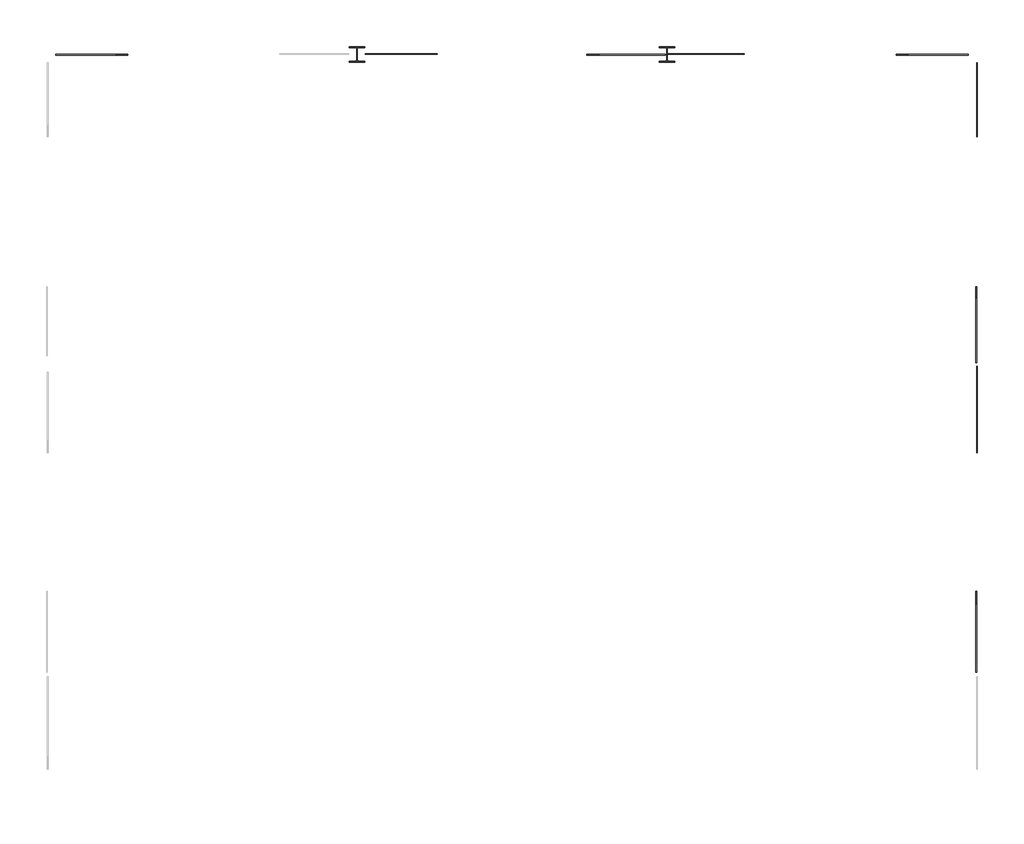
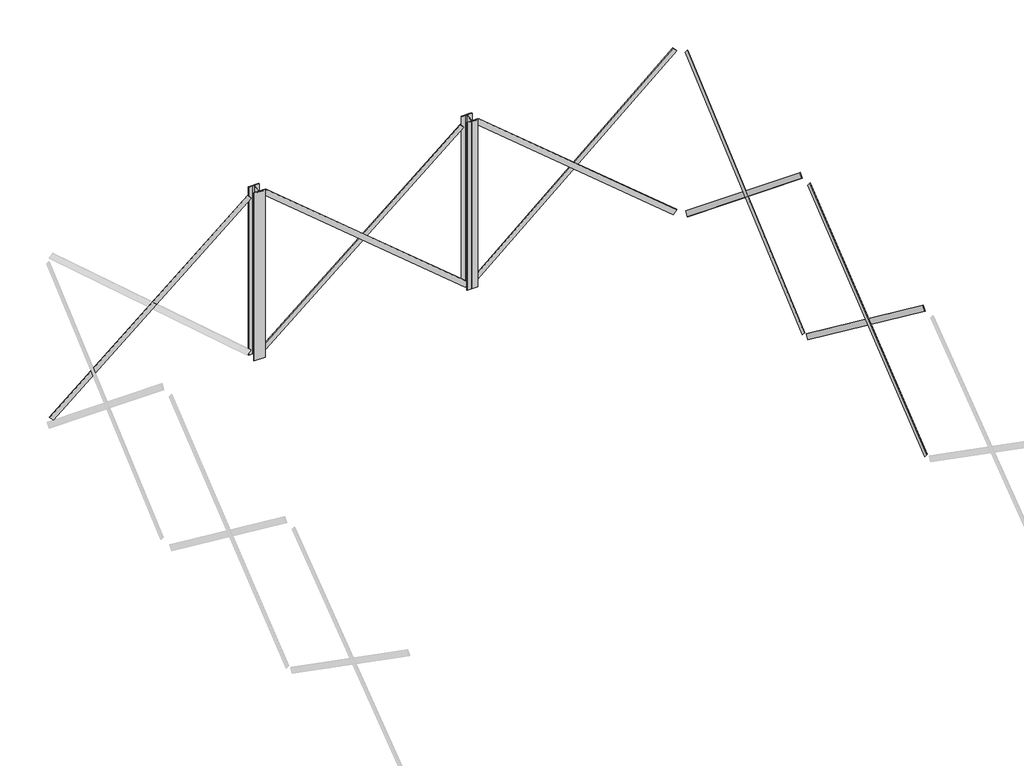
# One storey, part 2 of 2: 9 beams, 2 columns.
"""IFC4 building model written with IfcOpenShell, lengths in millimetres."""

from ifc_helpers import new_model, si_unit, frame, origin, place, context, project, spatial, polyline, circle_curve, ellipse_curve, transform, mapped, element, save
from ifc_brep_helpers import plane_surface, cylinder_surface, revolved_surface, advanced_brep
from components import m_platte_15x150_c4686393, m_platte_15x150_519b5cee, m_platte_15x150_d6caa432, m_platte_15x150_a89569ab, m_platte_15x150_45e7b507, m_platte_15x150_440fb802

model = new_model("IFC4")

# Units and contexts
model_context = context("Model", 3, world=origin())
ifc_project = project(units=[si_unit("LENGTHUNIT", "METRE", prefix="MILLI")], contexts=[model_context])

# Site, building, storey
site = spatial("IfcSite", under=ifc_project)
building = spatial("IfcBuilding", under=site)
storey = spatial("IfcBuildingStorey", under=building, Name="Decke über EG", Elevation=3500.0)

# Beams
placement = place(None, origin())
m_platte_15x150_shape = m_platte_15x150_c4686393(model_context)
element("IfcBeam", 1, ObjectType="M_Platte : 15X150", at=placement, inside=storey, context=model_context, shape_type="MappedRepresentation", body=[
    mapped(m_platte_15x150_shape, transform((6258.1720523, 9860.6318646, 6098.9276534), x_axis=(0.7558227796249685, 0.0, 0.6547762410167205), y_axis=(0.0, 1.0, 0.0), z_axis=(-0.6547762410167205, 0.0, 0.7558227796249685))),
])
m_platte_15x150_2_shape = m_platte_15x150_519b5cee(model_context)
element("IfcBeam", 2, ObjectType="M_Platte : 15X150", at=placement, inside=storey, context=model_context, shape_type="MappedRepresentation", body=[
    mapped(m_platte_15x150_2_shape, transform((6258.1720523, 9845.6318646, 6003.7811614), x_axis=(-0.7677451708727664, 0.0, 0.6407552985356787), y_axis=(0.0, -1.0, 0.0), z_axis=(0.6407552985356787, 0.0, 0.7677451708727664))),
])
element("IfcBeam", 3, ObjectType="M_Platte : 15X150", at=placement, inside=storey, context=model_context, shape_type="MappedRepresentation", body=[
    mapped(m_platte_15x150_2_shape, transform((258.1720523, 9860.6318646, 6003.7811614), x_axis=(0.7677451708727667, 0.0, 0.6407552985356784), y_axis=(0.0, 1.0, 0.0), z_axis=(-0.6407552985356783, 0.0, 0.7677451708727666))),
])
element("IfcBeam", 4, ObjectType="M_Platte : 15X150", at=placement, inside=storey, context=model_context, shape_type="MappedRepresentation", body=[
    mapped(m_platte_15x150_2_shape, transform((-5741.8279477, 9845.6318646, 6003.7811614), x_axis=(0.7677451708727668, 0.0, 0.6407552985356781), y_axis=(0.0, 1.0, 0.0), z_axis=(-0.6407552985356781, 0.0, 0.7677451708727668))),
])
m_platte_15x150_3_shape = m_platte_15x150_d6caa432(model_context)
element("IfcBeam", 5, ObjectType="M_Platte : 15X150", at=placement, inside=storey, context=model_context, shape_type="MappedRepresentation", body=[
    mapped(m_platte_15x150_3_shape, transform((258.1720523, 9845.6318646, 6003.7811614), x_axis=(-0.7677451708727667, 0.0, 0.6407552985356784), y_axis=(0.0, -1.0, 0.0), z_axis=(0.6407552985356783, 0.0, 0.7677451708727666))),
])
m_platte_15x150_4_shape = m_platte_15x150_a89569ab(model_context)
element("IfcBeam", 6, ObjectType="M_Platte : 15X150", at=placement, inside=storey, context=model_context, shape_type="MappedRepresentation", body=[
    mapped(m_platte_15x150_4_shape, transform((9250.6720523, 853.1318646, 5932.2609868), x_axis=(0.0, 0.7767774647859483, 0.6297751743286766), y_axis=(-1.0, 0.0, 0.0), z_axis=(0.0, -0.6297751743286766, 0.7767774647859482))),
])
m_platte_15x150_5_shape = m_platte_15x150_45e7b507(model_context)
element("IfcBeam", 7, ObjectType="M_Platte : 15X150", at=placement, inside=storey, context=model_context, shape_type="MappedRepresentation", body=[
    mapped(m_platte_15x150_5_shape, transform((9265.6720523, 853.1318646, 5765.5943201), x_axis=(0.0, -0.7980045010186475, 0.6026514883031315), y_axis=(1.0, 0.0, 0.0), z_axis=(0.0, 0.6026514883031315, 0.7980045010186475))),
])
element("IfcBeam", 8, ObjectType="M_Platte : 15X150", at=placement, inside=storey, context=model_context, shape_type="MappedRepresentation", body=[
    mapped(m_platte_15x150_shape, transform((9250.6720523, 6853.1318646, 6098.9276534), x_axis=(0.0, 0.7558227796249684, 0.6547762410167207), y_axis=(-1.0, 0.0, 0.0), z_axis=(0.0, -0.6547762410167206, 0.7558227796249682))),
])
m_platte_15x150_6_shape = m_platte_15x150_440fb802(model_context)
element("IfcBeam", 9, ObjectType="M_Platte : 15X150", at=placement, inside=storey, context=model_context, shape_type="MappedRepresentation", body=[
    mapped(m_platte_15x150_6_shape, transform((9265.6720523, 6853.1318646, 5932.2609868), x_axis=(0.0, -0.7767774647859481, 0.6297751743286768), y_axis=(1.0, 0.0, 0.0), z_axis=(0.0, 0.6297751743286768, 0.7767774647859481))),
])

# Columns
element("IfcColumn", 10, ObjectType="HE-B Stütze : HEB 300", at=placement, inside=storey, context=model_context, shape_type="AdvancedBrep", body=[
    advanced_brep(
    [(-2891.8279477, 9703.1318646, 3500.0), (-2891.8279477, 9722.1318646, 3500.0), (-2774.3279477, 9722.1318646, 3500.0), (-2747.3279477, 9749.1318646, 3500.0), (-2747.3279477, 9957.1318646, 3500.0), (-2774.3279477, 9984.1318646, 3500.0), (-2891.8279477, 9984.1318646, 3500.0), (-2891.8279477, 10003.1318646, 3500.0), (-2591.8279477, 10003.1318646, 3500.0), (-2591.8279477, 9984.1318646, 3500.0), (-2709.3279477, 9984.1318646, 3500.0), (-2736.3279477, 9957.1318646, 3500.0), (-2736.3279477, 9749.1318646, 3500.0), (-2709.3279477, 9722.1318646, 3500.0), (-2591.8279477, 9722.1318646, 3500.0), (-2591.8279477, 9703.1318646, 3500.0), (-2891.8279477, 9703.1318646, 8507.5623229), (-2891.8279477, 9722.1318646, 8507.5623229), (-2841.8279477, 9722.1318646, 8507.5623229), (-2841.8279477, 9722.1318646, 8491.9512117), (-2774.3279477, 9722.1318646, 8491.9512117), (-2747.3279477, 9749.1318646, 8493.4512117), (-2747.3279477, 9957.1318646, 8505.0067673), (-2774.3279477, 9984.1318646, 8506.5067673), (-2841.8279477, 9984.1318646, 8506.5067673), (-2841.8279477, 9984.1318646, 8507.5623229), (-2891.8279477, 9984.1318646, 8507.5623229), (-2891.8279477, 10003.1318646, 8507.5623229), (-2841.8279477, 10003.1318646, 8507.5623229), (-2641.8279477, 10003.1318646, 8507.5623229), (-2591.8279477, 10003.1318646, 8507.5623229), (-2591.8279477, 9984.1318646, 8507.5623229), (-2641.8279477, 9984.1318646, 8507.5623229), (-2641.8279477, 9984.1318646, 8506.5067673), (-2709.3279477, 9984.1318646, 8506.5067673), (-2736.3279477, 9957.1318646, 8505.0067673), (-2736.3279477, 9749.1318646, 8493.4512117), (-2709.3279477, 9722.1318646, 8491.9512117), (-2641.8279477, 9722.1318646, 8491.9512117), (-2641.8279477, 9722.1318646, 8507.5623229), (-2591.8279477, 9722.1318646, 8507.5623229), (-2591.8279477, 9703.1318646, 8507.5623229), (-2720.8768659, 9703.1318646, 8507.5623229), (-2715.7279477, 9703.1318646, 8506.9203285), (-2641.8279477, 9703.1318646, 8506.9203285), (-2641.8279477, 9703.1318646, 8490.8956562), (-2841.8279477, 9703.1318646, 8490.8956562), (-2841.8279477, 9703.1318646, 8506.9203285), (-2767.9279477, 9703.1318646, 8506.9203285), (-2762.7790295, 9703.1318646, 8507.5623229), (-2767.9279477, 9714.6877626, 8507.5623229), (-2841.8279477, 9714.6877626, 8507.5623229), (-2641.8279477, 9714.6877626, 8507.5623229), (-2715.7279477, 9714.6877626, 8507.5623229)],
    [
        (0, 1),
        (1, 2),
        (2, 3, circle_curve(frame((-2774.3279477, 9749.1318646, 3500.0), z_axis=(0.0, 0.0, 1.0), x_axis=(-1.0, 0.0, 0.0)), 27.0)),
        (3, 4),
        (4, 5, circle_curve(frame((-2774.3279477, 9957.1318646, 3500.0), z_axis=(0.0, 0.0, 1.0), x_axis=(-1.0, 0.0, 0.0)), 27.0)),
        (5, 6),
        (6, 7),
        (7, 8),
        (8, 9),
        (9, 10),
        (10, 11, circle_curve(frame((-2709.3279477, 9957.1318646, 3500.0), z_axis=(0.0, 0.0, 1.0), x_axis=(-1.0, 0.0, 0.0)), 27.0)),
        (11, 12),
        (12, 13, circle_curve(frame((-2709.3279477, 9749.1318646, 3500.0), z_axis=(0.0, 0.0, 1.0), x_axis=(-1.0, 0.0, 0.0)), 27.0)),
        (13, 14),
        (14, 15),
        (15, 0),
        (0, 16),
        (16, 17),
        (17, 1),
        (17, 18),
        (18, 19),
        (19, 20),
        (20, 2),
        (20, 21, ellipse_curve(frame((-2774.3279477, 9749.1318646, 8493.4512117), z_axis=(0.0, -0.05547001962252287, 0.9984603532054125), x_axis=(0.0, -0.9984603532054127, -0.05547001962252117)), 27.0416346, 27.0)),
        (21, 3),
        (21, 22),
        (22, 4),
        (22, 23, ellipse_curve(frame((-2774.3279477, 9957.1318646, 8505.0067673), z_axis=(0.0, -0.05547001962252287, 0.9984603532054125), x_axis=(0.0, -0.9984603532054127, -0.05547001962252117)), 27.0416346, 27.0)),
        (23, 5),
        (23, 24),
        (24, 25),
        (25, 26),
        (26, 6),
        (26, 27),
        (27, 7),
        (27, 28),
        (28, 29),
        (29, 30),
        (30, 8),
        (30, 31),
        (31, 9),
        (31, 32),
        (32, 33),
        (33, 34),
        (34, 10),
        (34, 35, ellipse_curve(frame((-2709.3279477, 9957.1318646, 8505.0067673), z_axis=(0.0, -0.05547001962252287, 0.9984603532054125), x_axis=(0.0, -0.9984603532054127, -0.05547001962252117)), 27.0416346, 27.0)),
        (35, 11),
        (35, 36),
        (36, 12),
        (36, 37, ellipse_curve(frame((-2709.3279477, 9749.1318646, 8493.4512117), z_axis=(0.0, -0.05547001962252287, 0.9984603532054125), x_axis=(0.0, -0.9984603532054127, -0.05547001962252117)), 27.0416346, 27.0)),
        (37, 13),
        (37, 38),
        (38, 39),
        (39, 40),
        (40, 14),
        (40, 41),
        (41, 15),
        (41, 42),
        (42, 43, ellipse_curve(frame((-2715.7279477, 9703.1318646, 8527.952711), z_axis=(0.0, -1.0, 0.0), x_axis=(0.0, 0.0, 1.0)), 21.0323824, 21.0)),
        (43, 44),
        (44, 45),
        (45, 46),
        (46, 47),
        (47, 48),
        (48, 49, ellipse_curve(frame((-2767.9279477, 9703.1318646, 8527.952711), z_axis=(0.0, -1.0, 0.0), x_axis=(0.0, 0.0, 1.0)), 21.0323824, 21.0)),
        (49, 16),
        (49, 50, ellipse_curve(frame((-2767.9279477, 9336.1048786, 8507.5623229), z_axis=(0.0, 0.0, 1.0), x_axis=(0.0, 1.0, 0.0)), 378.5828839, 21.0)),
        (50, 51),
        (51, 18),
        (25, 28),
        (52, 44),
        (43, 53),
        (53, 52),
        (42, 53, ellipse_curve(frame((-2715.7279477, 9336.1048786, 8507.5623229), z_axis=(0.0, 0.0, -1.0), x_axis=(0.0, 1.0, 0.0)), 378.5828839, 21.0)),
        (48, 50),
        (47, 51),
        (46, 19),
        (28, 24),
        (45, 38),
        (33, 29),
        (52, 39),
        (29, 32),
    ],
    [
        plane_surface(frame((-2591.8279477, 9703.1318646, 3500.0), z_axis=(0.0, 0.0, -1.0), x_axis=(-1.0, 0.0, 0.0))),
        plane_surface(frame((-2891.8279477, 9722.1318646, 8507.5623229), z_axis=(-1.0, 0.0, 0.0), x_axis=(0.0, 0.0, -1.0))),
        plane_surface(frame((-2774.3279477, 9722.1318646, 8507.5623229), z_axis=(0.0, 1.0, 0.0), x_axis=(0.0, 0.0, -1.0))),
        revolved_surface(polyline([(-2801.3279477, 9749.1318646, 3500.0), (-2801.3279477, 9749.1318646, 8494.951211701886)]), (-2774.3279477, 9749.1318646, 3500.0), (0.0, 0.0, -1.0)),
        plane_surface(frame((-2747.3279477, 9957.1318646, 8507.5623229), z_axis=(-1.0, 0.0, 0.0), x_axis=(0.0, 0.0, -1.0))),
        revolved_surface(polyline([(-2801.3279477, 9957.1318646, 3500.0), (-2801.3279477, 9957.1318646, 8506.506767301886)]), (-2774.3279477, 9957.1318646, 3500.0), (0.0, 0.0, -1.0)),
        plane_surface(frame((-2891.8279477, 9984.1318646, 8507.5623229), z_axis=(0.0, -1.0, 0.0), x_axis=(0.0, 0.0, -1.0))),
        plane_surface(frame((-2891.8279477, 10003.1318646, 8507.5623229), z_axis=(-1.0, 0.0, 0.0), x_axis=(0.0, 0.0, -1.0))),
        plane_surface(frame((-2591.8279477, 10003.1318646, 8507.5623229), z_axis=(0.0, 1.0, 0.0), x_axis=(0.0, 0.0, -1.0))),
        plane_surface(frame((-2591.8279477, 9984.1318646, 8507.5623229), z_axis=(1.0, 0.0, 0.0), x_axis=(0.0, 0.0, -1.0))),
        plane_surface(frame((-2709.3279477, 9984.1318646, 8507.5623229), z_axis=(0.0, -1.0, 0.0), x_axis=(0.0, 0.0, -1.0))),
        revolved_surface(polyline([(-2736.3279477, 9957.1318646, 3500.0), (-2736.3279477, 9957.1318646, 8506.506767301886)]), (-2709.3279477, 9957.1318646, 3500.0), (0.0, 0.0, -1.0)),
        plane_surface(frame((-2736.3279477, 9749.1318646, 8507.5623229), z_axis=(1.0, 0.0, 0.0), x_axis=(0.0, 0.0, -1.0))),
        revolved_surface(polyline([(-2736.3279477, 9749.1318646, 3500.0), (-2736.3279477, 9749.1318646, 8494.951211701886)]), (-2709.3279477, 9749.1318646, 3500.0), (0.0, 0.0, -1.0)),
        plane_surface(frame((-2591.8279477, 9722.1318646, 8507.5623229), z_axis=(0.0, 1.0, 0.0), x_axis=(0.0, 0.0, -1.0))),
        plane_surface(frame((-2591.8279477, 9703.1318646, 8507.5623229), z_axis=(1.0, 0.0, 0.0), x_axis=(0.0, 0.0, -1.0))),
        plane_surface(frame((-2891.8279477, 9703.1318646, 8507.5623229), z_axis=(0.0, -1.0, 0.0), x_axis=(0.0, 0.0, -1.0))),
        plane_surface(frame((-2591.8279477, 9703.1318646, 8507.5623229), z_axis=(0.0, 0.0, 1.0), x_axis=(1.0, 0.0, 0.0))),
        plane_surface(frame((-2641.8279477, -9130.7838392, 7460.5916783), z_axis=(0.0, 0.05547001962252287, -0.9984603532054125), x_axis=(0.0, 0.9984603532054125, 0.05547001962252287))),
        cylinder_surface(frame((-2715.7279477, -9131.9487096, 7481.5593457), z_axis=(0.0, 0.9984603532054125, 0.05547001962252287), x_axis=(-1.0, 0.0, 0.0)), 21.0),
        cylinder_surface(frame((-2767.9279477, -9131.9487096, 7481.5593457), z_axis=(0.0, 0.9984603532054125, 0.05547001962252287), x_axis=(-1.0, 0.0, 0.0)), 21.0),
        plane_surface(frame((-2767.9279477, -9130.7838392, 7460.5916783), z_axis=(0.0, 0.05547001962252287, -0.9984603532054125), x_axis=(0.0, 0.9984603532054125, 0.05547001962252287))),
        plane_surface(frame((-2841.8279477, -9130.7838392, 7460.5916783), z_axis=(1.0, 0.0, 0.0), x_axis=(0.0, 0.9984603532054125, 0.05547001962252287))),
        plane_surface(frame((-2841.8279477, -9129.8963189, 7444.6163127), z_axis=(0.0, -0.05547001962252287, 0.9984603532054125), x_axis=(0.0, 0.9984603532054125, 0.05547001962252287))),
        plane_surface(frame((-2641.8279477, -9129.8963189, 7444.6163127), z_axis=(-1.0, 0.0, 0.0), x_axis=(0.0, 0.9984603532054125, 0.05547001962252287))),
    ],
    [
        (0, [[1, 2, 3, 4, 5, 6, 7, 8, 9, 10, 11, 12, 13, 14, 15, 16]]),
        (1, [[-1, 17, 18, 19]]),
        (2, [[-2, -19, 20, 21, 22, 23]]),
        (3, [[-3, -23, 24, 25]]),
        (4, [[-4, -25, 26, 27]]),
        (5, [[-5, -27, 28, 29]]),
        (6, [[-6, -29, 30, 31, 32, 33]]),
        (7, [[-7, -33, 34, 35]]),
        (8, [[-8, -35, 36, 37, 38, 39]]),
        (9, [[-9, -39, 40, 41]]),
        (10, [[-10, -41, 42, 43, 44, 45]]),
        (11, [[-11, -45, 46, 47]]),
        (12, [[-12, -47, 48, 49]]),
        (13, [[-13, -49, 50, 51]]),
        (14, [[-14, -51, 52, 53, 54, 55]]),
        (15, [[-15, -55, 56, 57]]),
        (16, [[-16, -57, 58, 59, 60, 61, 62, 63, 64, 65, 66, -17]]),
        (17, [[-18, -66, 67, 68, 69, -20]]),
        (17, [[-34, -32, 70, -36]]),
        (18, [[71, -60, 72, 73]]),
        (19, [[-72, -59, 74]]),
        (20, [[75, -67, -65]]),
        (21, [[-75, -64, 76, -68]]),
        (22, [[-76, -63, 77, -21, -69]]),
        (23, [[78, -30, -28, -26, -24, -22, -77, -62, 79, -52, -50, -48, -46, -44, 80, -37]]),
        (24, [[-71, 81, -53, -79, -61]]),
        (17, [[-40, -38, 82, -42]]),
        (17, [[-56, -54, -81, -73, -74, -58]]),
        (22, [[-78, -70, -31]]),
        (24, [[-80, -43, -82]]),
    ],
),
])
element("IfcColumn", 11, ObjectType="HE-B Stütze : HEB 300", at=placement, inside=storey, context=model_context, shape_type="AdvancedBrep", body=[
    advanced_brep(
    [(3108.1720523, 9703.1318646, 3500.0), (3108.1720523, 9722.1318646, 3500.0), (3225.6720523, 9722.1318646, 3500.0), (3252.6720523, 9749.1318646, 3500.0), (3252.6720523, 9957.1318646, 3500.0), (3225.6720523, 9984.1318646, 3500.0), (3108.1720523, 9984.1318646, 3500.0), (3108.1720523, 10003.1318646, 3500.0), (3408.1720523, 10003.1318646, 3500.0), (3408.1720523, 9984.1318646, 3500.0), (3290.6720523, 9984.1318646, 3500.0), (3263.6720523, 9957.1318646, 3500.0), (3263.6720523, 9749.1318646, 3500.0), (3290.6720523, 9722.1318646, 3500.0), (3408.1720523, 9722.1318646, 3500.0), (3408.1720523, 9703.1318646, 3500.0), (3108.1720523, 9703.1318646, 8507.5623229), (3108.1720523, 9722.1318646, 8507.5623229), (3158.1720523, 9722.1318646, 8507.5623229), (3158.1720523, 9722.1318646, 8491.9512117), (3225.6720523, 9722.1318646, 8491.9512117), (3252.6720523, 9749.1318646, 8493.4512117), (3252.6720523, 9957.1318646, 8505.0067673), (3225.6720523, 9984.1318646, 8506.5067673), (3158.1720523, 9984.1318646, 8506.5067673), (3158.1720523, 9984.1318646, 8507.5623229), (3108.1720523, 9984.1318646, 8507.5623229), (3108.1720523, 10003.1318646, 8507.5623229), (3158.1720523, 10003.1318646, 8507.5623229), (3358.1720523, 10003.1318646, 8507.5623229), (3408.1720523, 10003.1318646, 8507.5623229), (3408.1720523, 9984.1318646, 8507.5623229), (3358.1720523, 9984.1318646, 8507.5623229), (3358.1720523, 9984.1318646, 8506.5067673), (3290.6720523, 9984.1318646, 8506.5067673), (3263.6720523, 9957.1318646, 8505.0067673), (3263.6720523, 9749.1318646, 8493.4512117), (3290.6720523, 9722.1318646, 8491.9512117), (3358.1720523, 9722.1318646, 8491.9512117), (3358.1720523, 9722.1318646, 8507.5623229), (3408.1720523, 9722.1318646, 8507.5623229), (3408.1720523, 9703.1318646, 8507.5623229), (3279.1231341, 9703.1318646, 8507.5623229), (3284.2720523, 9703.1318646, 8506.9203285), (3358.1720523, 9703.1318646, 8506.9203285), (3358.1720523, 9703.1318646, 8490.8956562), (3158.1720523, 9703.1318646, 8490.8956562), (3158.1720523, 9703.1318646, 8506.9203285), (3232.0720523, 9703.1318646, 8506.9203285), (3237.2209705, 9703.1318646, 8507.5623229), (3232.0720523, 9714.6877626, 8507.5623229), (3158.1720523, 9714.6877626, 8507.5623229), (3358.1720523, 9714.6877626, 8507.5623229), (3284.2720523, 9714.6877626, 8507.5623229)],
    [
        (0, 1),
        (1, 2),
        (2, 3, circle_curve(frame((3225.6720523, 9749.1318646, 3500.0), z_axis=(0.0, 0.0, 1.0), x_axis=(-1.0, 0.0, 0.0)), 27.0)),
        (3, 4),
        (4, 5, circle_curve(frame((3225.6720523, 9957.1318646, 3500.0), z_axis=(0.0, 0.0, 1.0), x_axis=(-1.0, 0.0, 0.0)), 27.0)),
        (5, 6),
        (6, 7),
        (7, 8),
        (8, 9),
        (9, 10),
        (10, 11, circle_curve(frame((3290.6720523, 9957.1318646, 3500.0), z_axis=(0.0, 0.0, 1.0), x_axis=(-1.0, 0.0, 0.0)), 27.0)),
        (11, 12),
        (12, 13, circle_curve(frame((3290.6720523, 9749.1318646, 3500.0), z_axis=(0.0, 0.0, 1.0), x_axis=(-1.0, 0.0, 0.0)), 27.0)),
        (13, 14),
        (14, 15),
        (15, 0),
        (0, 16),
        (16, 17),
        (17, 1),
        (17, 18),
        (18, 19),
        (19, 20),
        (20, 2),
        (20, 21, ellipse_curve(frame((3225.6720523, 9749.1318646, 8493.4512117), z_axis=(0.0, -0.05547001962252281, 0.9984603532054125), x_axis=(0.0, -0.9984603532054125, -0.05547001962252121)), 27.0416346, 27.0)),
        (21, 3),
        (21, 22),
        (22, 4),
        (22, 23, ellipse_curve(frame((3225.6720523, 9957.1318646, 8505.0067673), z_axis=(0.0, -0.05547001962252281, 0.9984603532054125), x_axis=(0.0, -0.9984603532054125, -0.05547001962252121)), 27.0416346, 27.0)),
        (23, 5),
        (23, 24),
        (24, 25),
        (25, 26),
        (26, 6),
        (26, 27),
        (27, 7),
        (27, 28),
        (28, 29),
        (29, 30),
        (30, 8),
        (30, 31),
        (31, 9),
        (31, 32),
        (32, 33),
        (33, 34),
        (34, 10),
        (34, 35, ellipse_curve(frame((3290.6720523, 9957.1318646, 8505.0067673), z_axis=(0.0, -0.05547001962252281, 0.9984603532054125), x_axis=(0.0, -0.9984603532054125, -0.05547001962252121)), 27.0416346, 27.0)),
        (35, 11),
        (35, 36),
        (36, 12),
        (36, 37, ellipse_curve(frame((3290.6720523, 9749.1318646, 8493.4512117), z_axis=(0.0, -0.05547001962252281, 0.9984603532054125), x_axis=(0.0, -0.9984603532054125, -0.05547001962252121)), 27.0416346, 27.0)),
        (37, 13),
        (37, 38),
        (38, 39),
        (39, 40),
        (40, 14),
        (40, 41),
        (41, 15),
        (41, 42),
        (42, 43, ellipse_curve(frame((3284.2720523, 9703.1318646, 8527.952711), z_axis=(0.0, -1.0, 0.0), x_axis=(0.0, 0.0, 1.0)), 21.0323824, 21.0)),
        (43, 44),
        (44, 45),
        (45, 46),
        (46, 47),
        (47, 48),
        (48, 49, ellipse_curve(frame((3232.0720523, 9703.1318646, 8527.952711), z_axis=(0.0, -1.0, 0.0), x_axis=(0.0, 0.0, 1.0)), 21.0323824, 21.0)),
        (49, 16),
        (49, 50, ellipse_curve(frame((3232.0720523, 9336.1048786, 8507.5623229), z_axis=(0.0, 0.0, 1.0), x_axis=(0.0, 1.0, 0.0)), 378.5828839, 21.0)),
        (50, 51),
        (51, 18),
        (25, 28),
        (52, 44),
        (43, 53),
        (53, 52),
        (42, 53, ellipse_curve(frame((3284.2720523, 9336.1048786, 8507.5623229), z_axis=(0.0, 0.0, -1.0), x_axis=(0.0, 1.0, 0.0)), 378.5828839, 21.0)),
        (48, 50),
        (47, 51),
        (46, 19),
        (28, 24),
        (45, 38),
        (33, 29),
        (52, 39),
        (29, 32),
    ],
    [
        plane_surface(frame((3408.1720523, 9703.1318646, 3500.0), z_axis=(0.0, 0.0, -1.0), x_axis=(-1.0, 0.0, 0.0))),
        plane_surface(frame((3108.1720523, 9722.1318646, 8507.5623229), z_axis=(-1.0, 0.0, 0.0), x_axis=(0.0, 0.0, -1.0))),
        plane_surface(frame((3225.6720523, 9722.1318646, 8507.5623229), z_axis=(0.0, 1.0, 0.0), x_axis=(0.0, 0.0, -1.0))),
        revolved_surface(polyline([(3198.6720523, 9749.1318646, 3500.0), (3198.6720523, 9749.1318646, 8494.951211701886)]), (3225.6720523, 9749.1318646, 3500.0), (0.0, 0.0, -1.0)),
        plane_surface(frame((3252.6720523, 9957.1318646, 8507.5623229), z_axis=(-1.0, 0.0, 0.0), x_axis=(0.0, 0.0, -1.0))),
        revolved_surface(polyline([(3198.6720523, 9957.1318646, 3500.0), (3198.6720523, 9957.1318646, 8506.506767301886)]), (3225.6720523, 9957.1318646, 3500.0), (0.0, 0.0, -1.0)),
        plane_surface(frame((3108.1720523, 9984.1318646, 8507.5623229), z_axis=(0.0, -1.0, 0.0), x_axis=(0.0, 0.0, -1.0))),
        plane_surface(frame((3108.1720523, 10003.1318646, 8507.5623229), z_axis=(-1.0, 0.0, 0.0), x_axis=(0.0, 0.0, -1.0))),
        plane_surface(frame((3408.1720523, 10003.1318646, 8507.5623229), z_axis=(0.0, 1.0, 0.0), x_axis=(0.0, 0.0, -1.0))),
        plane_surface(frame((3408.1720523, 9984.1318646, 8507.5623229), z_axis=(1.0, 0.0, 0.0), x_axis=(0.0, 0.0, -1.0))),
        plane_surface(frame((3290.6720523, 9984.1318646, 8507.5623229), z_axis=(0.0, -1.0, 0.0), x_axis=(0.0, 0.0, -1.0))),
        revolved_surface(polyline([(3263.6720523, 9957.1318646, 3500.0), (3263.6720523, 9957.1318646, 8506.506767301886)]), (3290.6720523, 9957.1318646, 3500.0), (0.0, 0.0, -1.0)),
        plane_surface(frame((3263.6720523, 9749.1318646, 8507.5623229), z_axis=(1.0, 0.0, 0.0), x_axis=(0.0, 0.0, -1.0))),
        revolved_surface(polyline([(3263.6720523, 9749.1318646, 3500.0), (3263.6720523, 9749.1318646, 8494.951211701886)]), (3290.6720523, 9749.1318646, 3500.0), (0.0, 0.0, -1.0)),
        plane_surface(frame((3408.1720523, 9722.1318646, 8507.5623229), z_axis=(0.0, 1.0, 0.0), x_axis=(0.0, 0.0, -1.0))),
        plane_surface(frame((3408.1720523, 9703.1318646, 8507.5623229), z_axis=(1.0, 0.0, 0.0), x_axis=(0.0, 0.0, -1.0))),
        plane_surface(frame((3108.1720523, 9703.1318646, 8507.5623229), z_axis=(0.0, -1.0, 0.0), x_axis=(0.0, 0.0, -1.0))),
        plane_surface(frame((3408.1720523, 9703.1318646, 8507.5623229), z_axis=(0.0, 0.0, 1.0), x_axis=(1.0, 0.0, 0.0))),
        plane_surface(frame((3358.1720523, -9130.7838392, 7460.5916783), z_axis=(0.0, 0.05547001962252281, -0.9984603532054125), x_axis=(0.0, 0.9984603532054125, 0.05547001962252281))),
        cylinder_surface(frame((3284.2720523, -9131.9487096, 7481.5593457), z_axis=(0.0, 0.9984603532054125, 0.05547001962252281), x_axis=(-1.0, 0.0, 0.0)), 21.0),
        cylinder_surface(frame((3232.0720523, -9131.9487096, 7481.5593457), z_axis=(0.0, 0.9984603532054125, 0.05547001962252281), x_axis=(-1.0, 0.0, 0.0)), 21.0),
        plane_surface(frame((3232.0720523, -9130.7838392, 7460.5916783), z_axis=(0.0, 0.05547001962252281, -0.9984603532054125), x_axis=(0.0, 0.9984603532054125, 0.05547001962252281))),
        plane_surface(frame((3158.1720523, -9130.7838392, 7460.5916783), z_axis=(1.0, 0.0, 0.0), x_axis=(0.0, 0.9984603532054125, 0.05547001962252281))),
        plane_surface(frame((3158.1720523, -9129.8963189, 7444.6163127), z_axis=(0.0, -0.05547001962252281, 0.9984603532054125), x_axis=(0.0, 0.9984603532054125, 0.05547001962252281))),
        plane_surface(frame((3358.1720523, -9129.8963189, 7444.6163127), z_axis=(-1.0, 0.0, 0.0), x_axis=(0.0, 0.9984603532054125, 0.05547001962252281))),
    ],
    [
        (0, [[1, 2, 3, 4, 5, 6, 7, 8, 9, 10, 11, 12, 13, 14, 15, 16]]),
        (1, [[-1, 17, 18, 19]]),
        (2, [[-2, -19, 20, 21, 22, 23]]),
        (3, [[-3, -23, 24, 25]]),
        (4, [[-4, -25, 26, 27]]),
        (5, [[-5, -27, 28, 29]]),
        (6, [[-6, -29, 30, 31, 32, 33]]),
        (7, [[-7, -33, 34, 35]]),
        (8, [[-8, -35, 36, 37, 38, 39]]),
        (9, [[-9, -39, 40, 41]]),
        (10, [[-10, -41, 42, 43, 44, 45]]),
        (11, [[-11, -45, 46, 47]]),
        (12, [[-12, -47, 48, 49]]),
        (13, [[-13, -49, 50, 51]]),
        (14, [[-14, -51, 52, 53, 54, 55]]),
        (15, [[-15, -55, 56, 57]]),
        (16, [[-16, -57, 58, 59, 60, 61, 62, 63, 64, 65, 66, -17]]),
        (17, [[-18, -66, 67, 68, 69, -20]]),
        (17, [[-34, -32, 70, -36]]),
        (18, [[71, -60, 72, 73]]),
        (19, [[-72, -59, 74]]),
        (20, [[75, -67, -65]]),
        (21, [[-75, -64, 76, -68]]),
        (22, [[-76, -63, 77, -21, -69]]),
        (23, [[78, -30, -28, -26, -24, -22, -77, -62, 79, -52, -50, -48, -46, -44, 80, -37]]),
        (24, [[-71, 81, -53, -79, -61]]),
        (17, [[-40, -38, 82, -42]]),
        (17, [[-56, -54, -81, -73, -74, -58]]),
        (22, [[-78, -70, -31]]),
        (24, [[-80, -43, -82]]),
    ],
),
])

save(model, "model.ifc")
